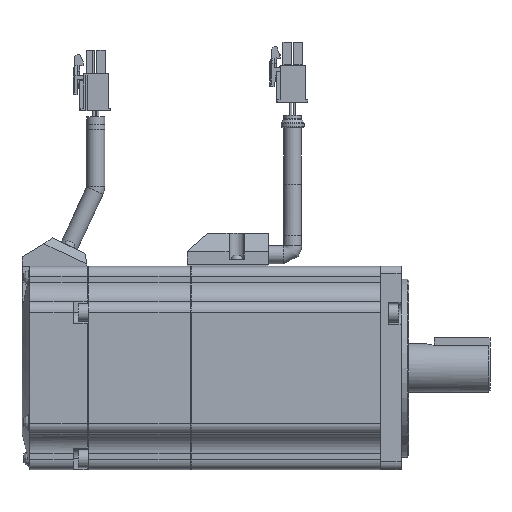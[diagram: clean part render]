
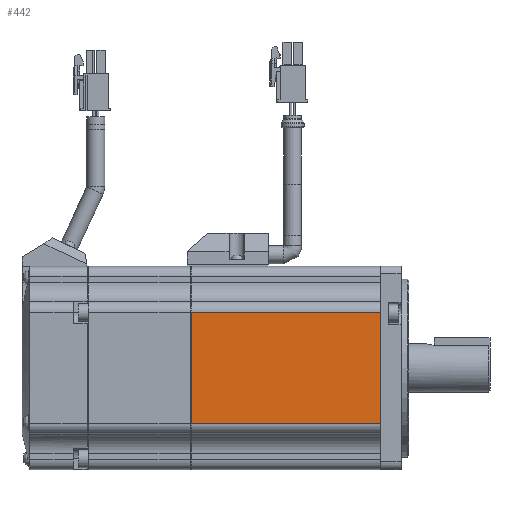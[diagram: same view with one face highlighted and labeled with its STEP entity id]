
A CAD part, top view. The second image highlights one B-rep face of the part: STEP entity #442.
In plain terms, the highlighted planar face has unit normal (0, 0, 1).
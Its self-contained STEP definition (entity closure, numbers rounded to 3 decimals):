
#442 = ADVANCED_FACE( '', ( #1313 ), #1314, .F. );
#1313 = FACE_OUTER_BOUND( '', #3102, .T. );
#1314 = PLANE( '', #3103 );
#3102 = EDGE_LOOP( '', ( #5551, #5552, #5553, #5554 ) );
#3103 = AXIS2_PLACEMENT_3D( '', #5555, #5556, #5557 );
#5551 = ORIENTED_EDGE( '', *, *, #11383, .F. );
#5552 = ORIENTED_EDGE( '', *, *, #11453, .T. );
#5553 = ORIENTED_EDGE( '', *, *, #11555, .T. );
#5554 = ORIENTED_EDGE( '', *, *, #11510, .F. );
#5555 = CARTESIAN_POINT( '', ( 8., 37., 40. ) );
#5556 = DIRECTION( '', ( 0., 0., -1. ) );
#5557 = DIRECTION( '', ( -1., 0., 0. ) );
#11383 = EDGE_CURVE( '', #13393, #13396, #13397, .T. );
#11453 = EDGE_CURVE( '', #13393, #13533, #13535, .T. );
#11510 = EDGE_CURVE( '', #13396, #13622, #13623, .T. );
#11555 = EDGE_CURVE( '', #13533, #13622, #13711, .T. );
#13393 = VERTEX_POINT( '', #16782 );
#13396 = VERTEX_POINT( '', #16785 );
#13397 = LINE( '', #16786, #16787 );
#13533 = VERTEX_POINT( '', #16958 );
#13535 = LINE( '', #16960, #16961 );
#13622 = VERTEX_POINT( '', #17088 );
#13623 = LINE( '', #17089, #17090 );
#13711 = LINE( '', #17200, #17201 );
#16782 = CARTESIAN_POINT( '', ( -74.5, 22., 40. ) );
#16785 = CARTESIAN_POINT( '', ( -0.1, 22., 40. ) );
#16786 = CARTESIAN_POINT( '', ( -115., 22., 40. ) );
#16787 = VECTOR( '', #21587, 1000. );
#16958 = CARTESIAN_POINT( '', ( -74.5, -22., 40. ) );
#16960 = CARTESIAN_POINT( '', ( -74.5, 37., 40. ) );
#16961 = VECTOR( '', #21725, 1000. );
#17088 = CARTESIAN_POINT( '', ( -0.1, -22., 40. ) );
#17089 = CARTESIAN_POINT( '', ( -0.1, 37., 40. ) );
#17090 = VECTOR( '', #21814, 1000. );
#17200 = CARTESIAN_POINT( '', ( -115., -22., 40. ) );
#17201 = VECTOR( '', #21903, 1000. );
#21587 = DIRECTION( '', ( 1., 0., 0. ) );
#21725 = DIRECTION( '', ( 0., -1., 0. ) );
#21814 = DIRECTION( '', ( 0., -1., 0. ) );
#21903 = DIRECTION( '', ( 1., 0., 0. ) );
